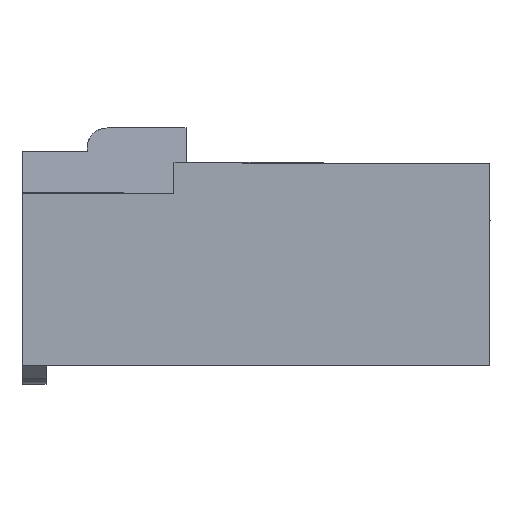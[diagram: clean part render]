
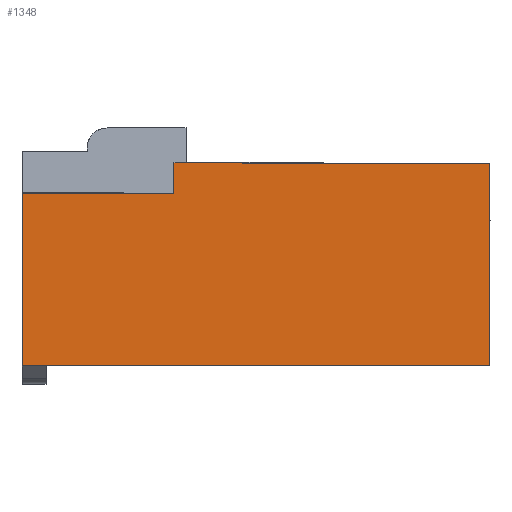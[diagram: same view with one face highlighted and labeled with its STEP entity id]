
A CAD part, front view. The second image highlights one B-rep face of the part: STEP entity #1348.
In plain terms, the highlighted planar face has unit normal (0, -1, 0).
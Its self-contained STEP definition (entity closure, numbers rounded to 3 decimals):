
#1311=AXIS2_PLACEMENT_3D('Plane Axis2P3D',#1308,#1309,#1310) ;
#363=CARTESIAN_POINT('Vertex',(-23.4,-19.5,-5.675)) ;
#366=CARTESIAN_POINT('Line Origine',(-23.4,-19.5,-1.35)) ;
#370=CARTESIAN_POINT('Vertex',(-23.4,-19.5,2.975)) ;
#640=CARTESIAN_POINT('Line Origine',(-19.6,-19.5,2.975)) ;
#644=CARTESIAN_POINT('Vertex',(-15.8,-19.5,2.975)) ;
#1292=CARTESIAN_POINT('Vertex',(-22.2,-19.5,-5.675)) ;
#1295=CARTESIAN_POINT('Line Origine',(-22.8,-19.5,-5.675)) ;
#1308=CARTESIAN_POINT('Axis2P3D Location',(0.,-19.5,1.65)) ;
#1313=CARTESIAN_POINT('Line Origine',(-15.8,-19.5,3.725)) ;
#1317=CARTESIAN_POINT('Vertex',(-15.8,-19.5,4.475)) ;
#1320=CARTESIAN_POINT('Line Origine',(-11.1,-19.5,-5.675)) ;
#1324=CARTESIAN_POINT('Vertex',(0.,-19.5,-5.675)) ;
#1327=CARTESIAN_POINT('Line Origine',(0.,-19.5,-0.6)) ;
#1331=CARTESIAN_POINT('Vertex',(0.,-19.5,4.475)) ;
#1334=CARTESIAN_POINT('Line Origine',(-7.9,-19.5,4.475)) ;
#367=DIRECTION('Vector Direction',(0.,0.,1.)) ;
#641=DIRECTION('Vector Direction',(-1.,0.,0.)) ;
#1296=DIRECTION('Vector Direction',(-1.,0.,0.)) ;
#1309=DIRECTION('Axis2P3D Direction',(0.,1.,0.)) ;
#1310=DIRECTION('Axis2P3D XDirection',(0.,0.,-1.)) ;
#1314=DIRECTION('Vector Direction',(0.,0.,-1.)) ;
#1321=DIRECTION('Vector Direction',(-1.,0.,0.)) ;
#1328=DIRECTION('Vector Direction',(0.,0.,-1.)) ;
#1335=DIRECTION('Vector Direction',(-1.,0.,0.)) ;
#368=VECTOR('Line Direction',#367,1.) ;
#642=VECTOR('Line Direction',#641,1.) ;
#1297=VECTOR('Line Direction',#1296,1.) ;
#1315=VECTOR('Line Direction',#1314,1.) ;
#1322=VECTOR('Line Direction',#1321,1.) ;
#1329=VECTOR('Line Direction',#1328,1.) ;
#1336=VECTOR('Line Direction',#1335,1.) ;
#1340=ORIENTED_EDGE('',*,*,#1319,.T.) ;
#1341=ORIENTED_EDGE('',*,*,#646,.T.) ;
#1342=ORIENTED_EDGE('',*,*,#372,.F.) ;
#1343=ORIENTED_EDGE('',*,*,#1299,.F.) ;
#1344=ORIENTED_EDGE('',*,*,#1326,.F.) ;
#1345=ORIENTED_EDGE('',*,*,#1333,.F.) ;
#1346=ORIENTED_EDGE('',*,*,#1338,.T.) ;
#1348=ADVANCED_FACE('\X2\FF8EFF9EFF83FF9EFF68FF70\X0\1',(#1347),#1312,.F.) ;
#372=EDGE_CURVE('',#364,#371,#369,.T.) ;
#646=EDGE_CURVE('',#645,#371,#643,.T.) ;
#1299=EDGE_CURVE('',#1293,#364,#1298,.T.) ;
#1319=EDGE_CURVE('',#1318,#645,#1316,.T.) ;
#1326=EDGE_CURVE('',#1325,#1293,#1323,.T.) ;
#1333=EDGE_CURVE('',#1332,#1325,#1330,.T.) ;
#1338=EDGE_CURVE('',#1332,#1318,#1337,.T.) ;
#1339=EDGE_LOOP('',(#1340,#1341,#1342,#1343,#1344,#1345,#1346)) ;
#1347=FACE_OUTER_BOUND('',#1339,.T.) ;
#369=LINE('Line',#366,#368) ;
#643=LINE('Line',#640,#642) ;
#1298=LINE('Line',#1295,#1297) ;
#1316=LINE('Line',#1313,#1315) ;
#1323=LINE('Line',#1320,#1322) ;
#1330=LINE('Line',#1327,#1329) ;
#1337=LINE('Line',#1334,#1336) ;
#1312=PLANE('',#1311) ;
#364=VERTEX_POINT('',#363) ;
#371=VERTEX_POINT('',#370) ;
#645=VERTEX_POINT('',#644) ;
#1293=VERTEX_POINT('',#1292) ;
#1318=VERTEX_POINT('',#1317) ;
#1325=VERTEX_POINT('',#1324) ;
#1332=VERTEX_POINT('',#1331) ;
